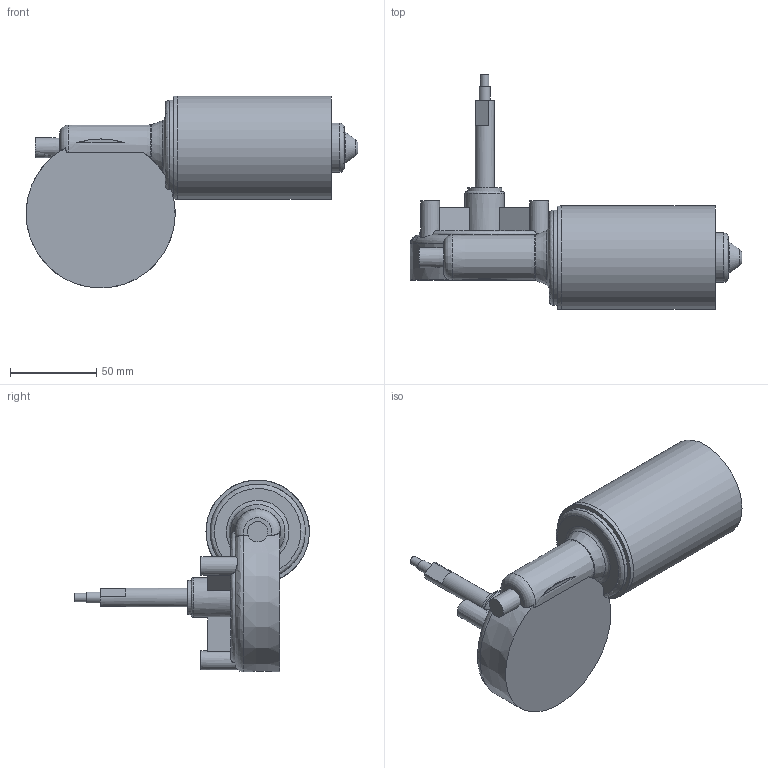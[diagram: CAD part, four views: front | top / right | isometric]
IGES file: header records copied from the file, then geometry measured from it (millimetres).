
Global section: file name: No Iges File Name specified; native system: AutoDesk Inventor R5.0; preprocessor: AutoDesk Inventor Iges Exporter R5.0; author: No Author specified; organization: No Organization specified; date: 20030124.211331; units: inch
Bounding box: 192.17 x 136.08 x 111.25 mm (x, y, z)
Surface area: 59042.6 mm2 (no closed solid volume)
Topology: 0 solids, 0 shells, 81 faces, 353 edges, 330 vertices
Faces by surface type: plane 41, revolution 33, bspline 7
